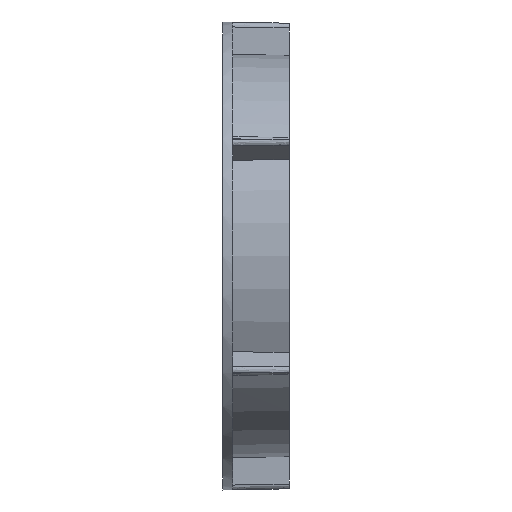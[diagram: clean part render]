
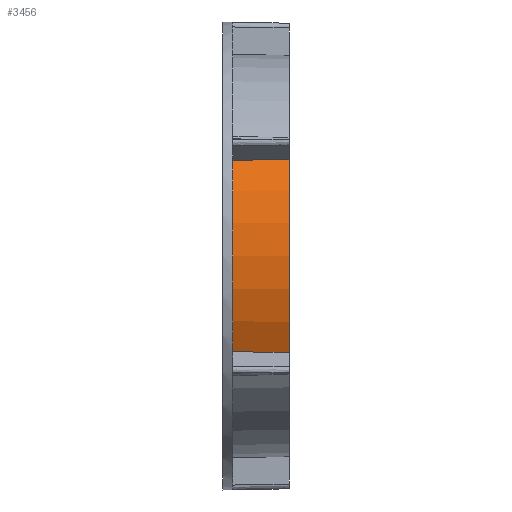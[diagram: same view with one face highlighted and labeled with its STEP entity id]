
A CAD part, left-side view. The second image highlights one B-rep face of the part: STEP entity #3456.
In plain terms, the highlighted conical face has half-angle 1 degrees and reference radius 51.75 mm.
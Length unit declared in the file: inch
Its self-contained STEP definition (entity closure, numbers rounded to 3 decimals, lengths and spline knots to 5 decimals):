
#161 = AXIS2_PLACEMENT_3D ( 'NONE', #8308, #9387, #11817 ) ;
#389 = AXIS2_PLACEMENT_3D ( 'NONE', #9060, #13856, #14853 ) ;
#654 = CARTESIAN_POINT ( 'NONE',  ( -1.77763, 0., 0.97138 ) ) ;
#675 = B_SPLINE_CURVE_WITH_KNOTS ( 'NONE', 3,
 ( #3380, #8043, #8259, #11402 ),
 .UNSPECIFIED., .F., .F.,
 ( 4, 4 ),
 ( 0., 0.0145 ),
 .UNSPECIFIED. ) ;
#1326 = CARTESIAN_POINT ( 'NONE',  ( -1.79094, 0.57087, 0.96776 ) ) ;
#1574 = B_SPLINE_CURVE_WITH_KNOTS ( 'NONE', 3,
 ( #8461, #3643, #3867, #3715 ),
 .UNSPECIFIED., .F., .F.,
 ( 4, 4 ),
 ( 0., 0.0145 ),
 .UNSPECIFIED. ) ;
#2130 = EDGE_CURVE ( 'NONE', #10724, #15066, #5990, .T. ) ;
#2257 = CARTESIAN_POINT ( 'NONE',  ( -1.79094, 0.57087, -0.96776 ) ) ;
#2587 = CIRCLE ( 'NONE', #161, 2.02572 ) ;
#3308 = FACE_OUTER_BOUND ( 'NONE', #14454, .T. ) ;
#3380 = CARTESIAN_POINT ( 'NONE',  ( -1.79094, 0.57087, 0.96776 ) ) ;
#3456 = ADVANCED_FACE ( 'NONE', ( #3308 ), #13137, .T. ) ;
#3643 = CARTESIAN_POINT ( 'NONE',  ( -1.78651, 0.38058, -0.96897 ) ) ;
#3715 = CARTESIAN_POINT ( 'NONE',  ( -1.77763, 0., -0.97138 ) ) ;
#3867 = CARTESIAN_POINT ( 'NONE',  ( -1.78207, 0.19029, -0.97018 ) ) ;
#4113 = AXIS2_PLACEMENT_3D ( 'NONE', #7969, #10405, #4534 ) ;
#4379 = EDGE_CURVE ( 'NONE', #10724, #9943, #675, .T. ) ;
#4534 = DIRECTION ( 'NONE',  ( 0., 0., -1. ) ) ;
#4651 = VERTEX_POINT ( 'NONE', #14366 ) ;
#5990 = CIRCLE ( 'NONE', #389, 2.03568 ) ;
#7969 = CARTESIAN_POINT ( 'NONE',  ( 0., 0.66929, 0. ) ) ;
#8043 = CARTESIAN_POINT ( 'NONE',  ( -1.78651, 0.38058, 0.96897 ) ) ;
#8259 = CARTESIAN_POINT ( 'NONE',  ( -1.78207, 0.19029, 0.97018 ) ) ;
#8308 = CARTESIAN_POINT ( 'NONE',  ( 0., 0., 0. ) ) ;
#8461 = CARTESIAN_POINT ( 'NONE',  ( -1.79094, 0.57087, -0.96776 ) ) ;
#8798 = ORIENTED_EDGE ( 'NONE', *, *, #10719, .F. ) ;
#9060 = CARTESIAN_POINT ( 'NONE',  ( 0., 0.57087, 0. ) ) ;
#9387 = DIRECTION ( 'NONE',  ( 0., -1., 0. ) ) ;
#9639 = ORIENTED_EDGE ( 'NONE', *, *, #10572, .T. ) ;
#9943 = VERTEX_POINT ( 'NONE', #654 ) ;
#10405 = DIRECTION ( 'NONE',  ( 0., 1., 0. ) ) ;
#10572 = EDGE_CURVE ( 'NONE', #15066, #4651, #1574, .T. ) ;
#10719 = EDGE_CURVE ( 'NONE', #9943, #4651, #2587, .T. ) ;
#10724 = VERTEX_POINT ( 'NONE', #1326 ) ;
#11402 = CARTESIAN_POINT ( 'NONE',  ( -1.77763, 0., 0.97138 ) ) ;
#11817 = DIRECTION ( 'NONE',  ( 0., 0., 1. ) ) ;
#13137 = CONICAL_SURFACE ( 'NONE', #4113, 2.0374, 0.017 ) ;
#13856 = DIRECTION ( 'NONE',  ( 0., -1., 0. ) ) ;
#14366 = CARTESIAN_POINT ( 'NONE',  ( -1.77763, 0., -0.97138 ) ) ;
#14454 = EDGE_LOOP ( 'NONE', ( #14989, #15006, #9639, #8798 ) ) ;
#14853 = DIRECTION ( 'NONE',  ( 0., 0., 1. ) ) ;
#14989 = ORIENTED_EDGE ( 'NONE', *, *, #4379, .F. ) ;
#15006 = ORIENTED_EDGE ( 'NONE', *, *, #2130, .T. ) ;
#15066 = VERTEX_POINT ( 'NONE', #2257 ) ;
